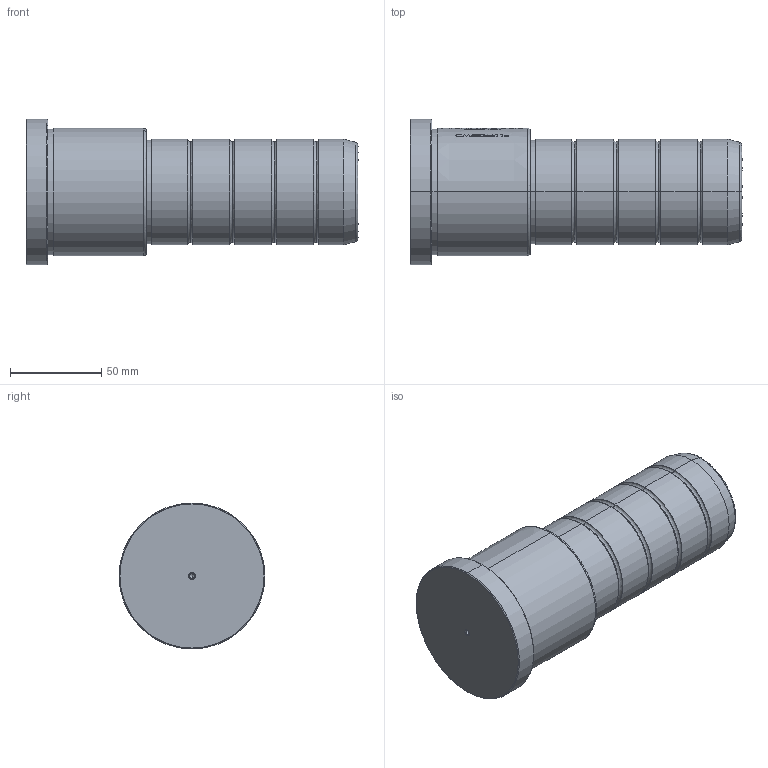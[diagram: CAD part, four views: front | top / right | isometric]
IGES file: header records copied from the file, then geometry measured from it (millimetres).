
Start section: SolidWorks IGES file using analytic representation for surfaces
Global section: file name: D:\TRIVECTOR\2026\08_Agosto\CM - COLUNA PRINCIPAL E31 (CATÁLOGO)\CM58066116.IGS; native system: SolidWorks 2024; preprocessor: SolidWorks 2024; author: Usuario; date: 260902.083649; units: millimetre
Bounding box: 182 x 80 x 80 mm (x, y, z)
Surface area: 47018 mm2 (no closed solid volume)
Topology: 0 solids, 0 shells, 483 faces, 6134 edges, 6130 vertices
Faces by surface type: bspline 399, revolution 84
